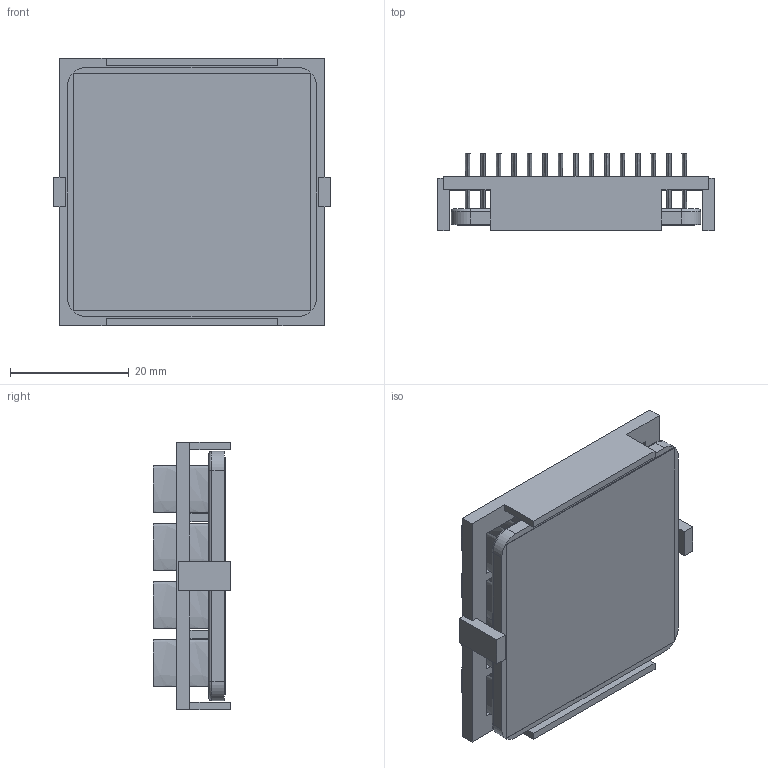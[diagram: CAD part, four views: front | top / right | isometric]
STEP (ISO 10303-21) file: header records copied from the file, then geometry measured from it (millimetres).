
FILE_DESCRIPTION (( 'STEP AP214' ), '1' );
FILE_NAME ('INM42.5001-12W-2.6O.STEP', '2023-02-28T00:08:09', ( '' ), ( '' ), 'SwSTEP 2.0', 'SolidWorks 2020', '' );
FILE_SCHEMA (( 'AUTOMOTIVE_DESIGN' ));
Length unit declared in the file: inch
Products named in the file (1): INM42.5001-12W-2.6O
Bounding box: 46.7 x 13.1 x 45.1 mm (x, y, z)
Volume: 9830.4 mm3; surface area: 19458.2 mm2
Topology: 3 solids, 3 shells, 258 faces, 568 edges, 376 vertices
Faces by surface type: plane 126, bspline 120, cylinder 8, torus 4
Entity records: 10728 total; most frequent: CARTESIAN_POINT 2763, ORIENTED_EDGE 1136, DIRECTION 626, EDGE_CURVE 568, VERTEX_POINT 376, EDGE_LOOP 320, VECTOR 308, LINE 308
